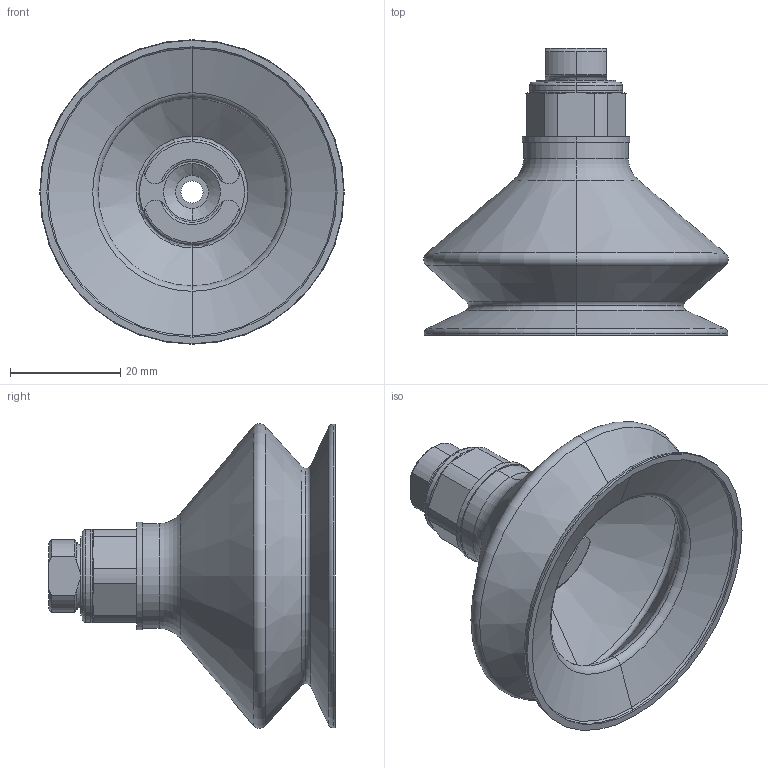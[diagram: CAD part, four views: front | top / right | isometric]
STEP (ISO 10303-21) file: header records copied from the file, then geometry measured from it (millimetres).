
FILE_DESCRIPTION (( 'STEP AP203' ), '1' );
FILE_NAME ('ZASB-55-1_4-PU.STEP', '2022-03-14T17:56:22', ( '' ), ( '' ), 'SwSTEP 2.0', 'SolidWorks 2019', '' );
FILE_SCHEMA (( 'CONFIG_CONTROL_DESIGN' ));
Length unit declared in the file: millimetre
Products named in the file (1): ZASB-55-1_4-PU
Bounding box: 55.17 x 52 x 55.17 mm (x, y, z)
Volume: 18712.2 mm3; surface area: 14080 mm2
Topology: 1 solids, 1 shells, 125 faces, 286 edges, 171 vertices
Faces by surface type: cylinder 43, torus 32, cone 28, plane 22
Entity records: 3714 total; most frequent: CARTESIAN_POINT 739, DIRECTION 679, ORIENTED_EDGE 572, AXIS2_PLACEMENT_3D 299, EDGE_CURVE 286, CIRCLE 173, VERTEX_POINT 171, EDGE_LOOP 135
